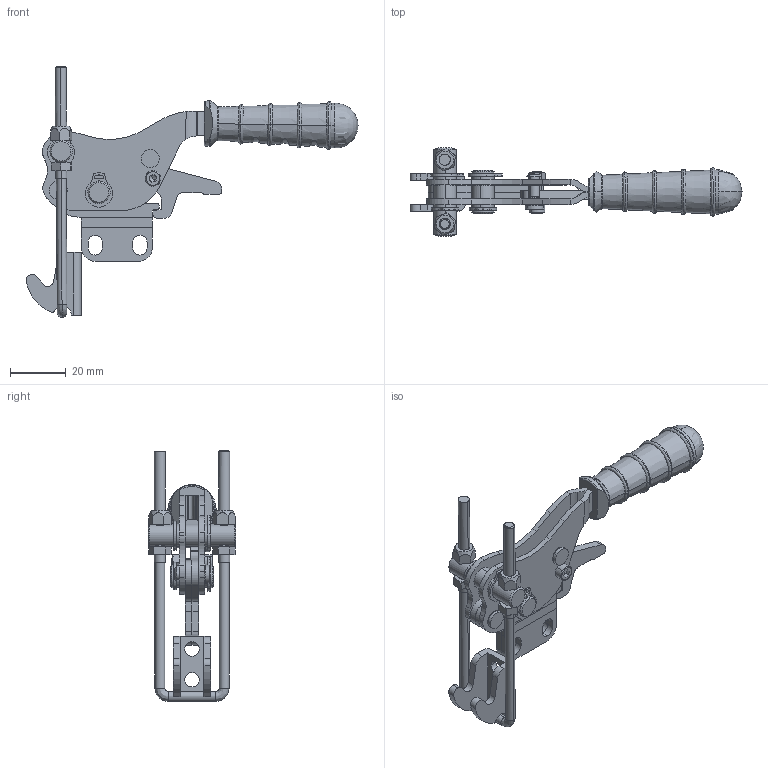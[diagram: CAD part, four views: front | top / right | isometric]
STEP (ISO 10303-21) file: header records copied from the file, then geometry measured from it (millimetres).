
FILE_DESCRIPTION (( 'STEP AP203' ), '1' );
FILE_NAME ('13204_D_K.STEP', '2023-05-22T11:20:37', ( '' ), ( '' ), 'SwSTEP 2.0', 'SolidWorks 2023', '' );
FILE_SCHEMA (( 'CONFIG_CONTROL_DESIGN' ));
Length unit declared in the file: millimetre
Products named in the file (1): 13204_D_K
Bounding box: 118.88 x 31.5 x 89.76 mm (x, y, z)
Volume: 23533.7 mm3; surface area: 23155.4 mm2
Topology: 22 solids, 22 shells, 698 faces, 1762 edges, 1118 vertices
Faces by surface type: plane 296, cylinder 265, cone 81, bspline 56
Entity records: 22640 total; most frequent: CARTESIAN_POINT 5641, DIRECTION 3607, ORIENTED_EDGE 3512, EDGE_CURVE 1756, AXIS2_PLACEMENT_3D 1350, VERTEX_POINT 1118, LINE 907, VECTOR 907
